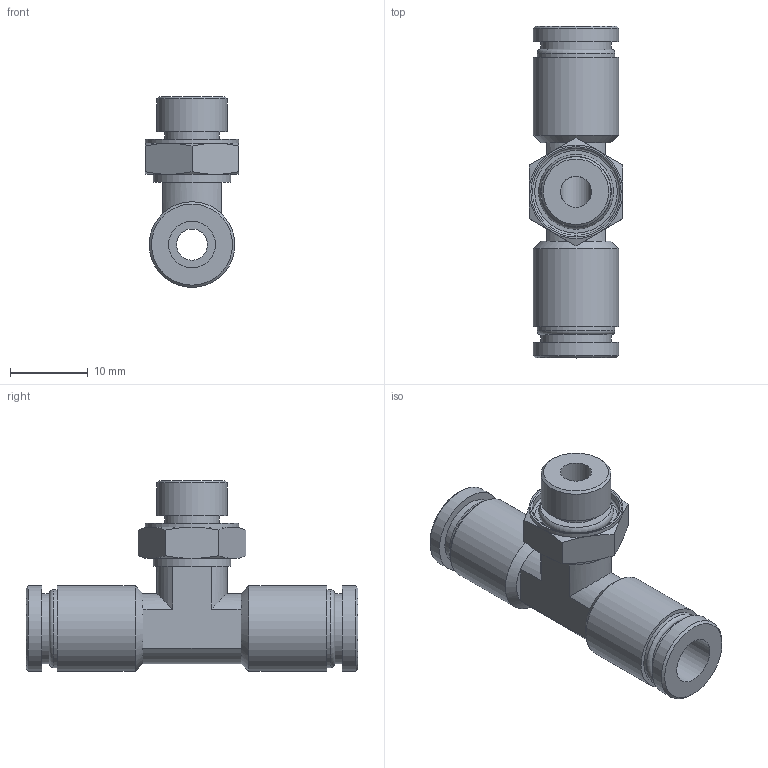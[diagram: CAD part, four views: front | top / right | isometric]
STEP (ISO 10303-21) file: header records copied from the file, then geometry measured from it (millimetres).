
FILE_DESCRIPTION(/* description */ (''),/* implementation_level */ '2;1');
FILE_NAME(/* name */ 'LXH38 0006 B1.stp',/* time_stamp */ '2026-04-24T18:58:25+02:00',/* author */ ('freju'),/* organization */ (''),/* preprocessor_version */ 'ST-DEVELOPER v20.1',/* originating_system */ 'Autodesk Inventor 2026',/* authorisation */ '');
FILE_SCHEMA (('AUTOMOTIVE_DESIGN { 1 0 10303 214 3 1 1 }'));
Length unit declared in the file: millimetre
Products named in the file (4): LXH38 0006 B1; LXH38 0006 B1_1; O-Ring; ISO 3601-1 - A 0060 G
Assembly tree (3 placements, depth 3):
  LXH38 0006 B1
    LXH38 0006 B1_1
    O-Ring
      ISO 3601-1 - A 0060 G
Bounding box: 12 x 42.6 x 24.5 mm (x, y, z)
Volume: 3349.1 mm3; surface area: 3464 mm2
Topology: 2 solids, 2 shells, 77 faces, 162 edges, 100 vertices
Faces by surface type: plane 29, cylinder 23, cone 17, torus 8
Full cylindrical faces by diameter (mm): 4 x2, 6 x3, 7 x1, 9 x3, 10 x3, 11 x4, 11.2 x1, 12 x1
Entity records: 2206 total; most frequent: DIRECTION 398, CARTESIAN_POINT 394, ORIENTED_EDGE 324, AXIS2_PLACEMENT_3D 176, EDGE_CURVE 162, VERTEX_POINT 100, EDGE_LOOP 94, CIRCLE 88
